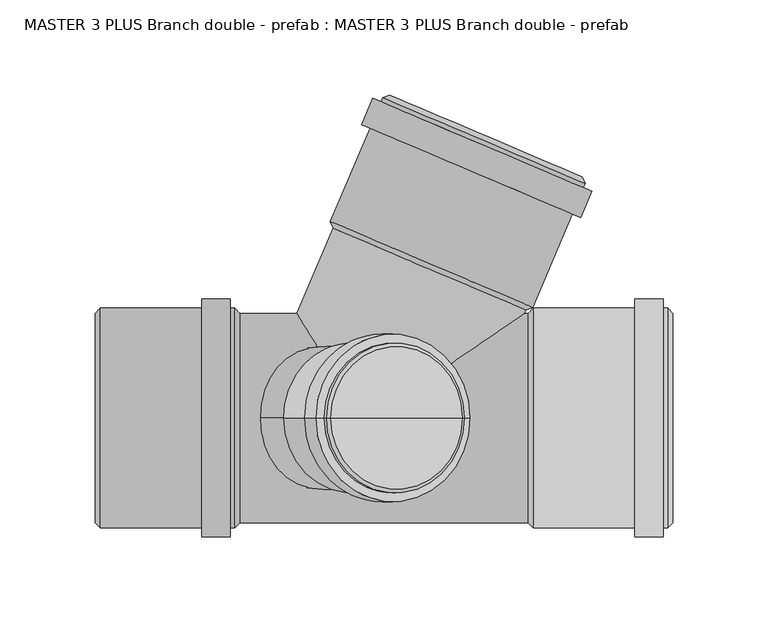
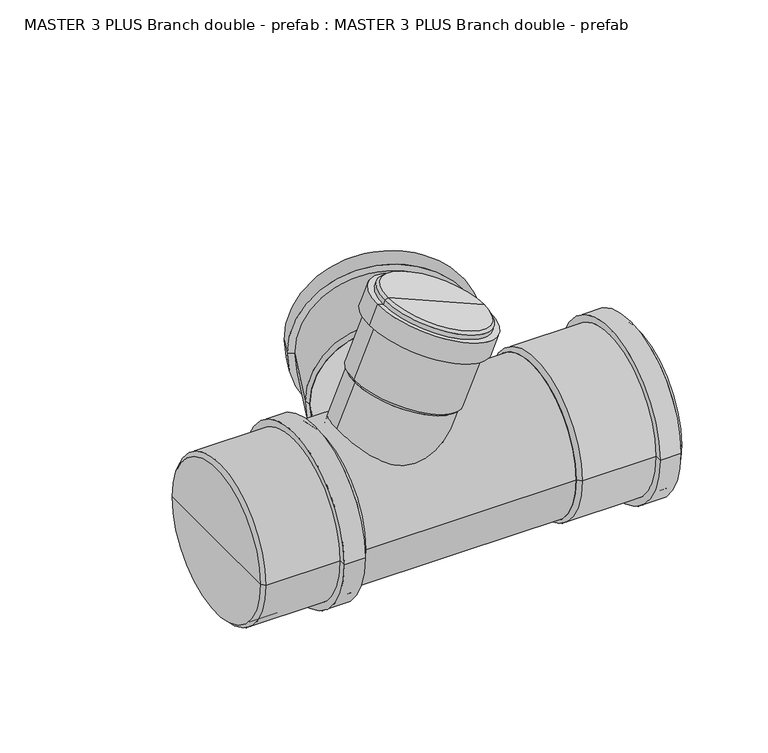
"""IFC4 building model written with IfcOpenShell, lengths in millimetres: pipe fitting geometry, MASTER 3 PLUS Branch double - prefab : MASTER 3 PLUS Branch double - prefab."""

from ifc_helpers import new_model, si_unit, point, frame, origin, origin_2d, place, context, project, spatial, polyline, circle_curve, trimmed, segment, composite_curve, outline, extrude, source, transform, mapped, element, save
from ifc_brep_helpers import plane_surface, cylinder_surface, revolved_surface, advanced_brep


def master_3_plus_branch_double_prefab_master_3_plus_branch_1b910fd9(model_context):
    return source(origin(), model_context, "Body", "SolidModel", [
        advanced_brep(
        [(-32.3959404, 0.0, 125.8117424), (48.6084867, 0.0, 91.4274031), (44.3741644, 0.0, 93.2247662), (-28.1616181, 0.0, 124.0143792), (-26.5349735, 0.0, 139.6193152), (54.4694536, 0.0, 105.2349759), (-22.3006511, 0.0, 137.821952), (50.2351313, 0.0, 107.032339), (15.9208957, 0.0, 127.0296698), (50.4398277, 0.0, 112.3772525), (-18.5980363, 0.0, 141.6820871), (-42.4326351, 0.0, 85.531291), (26.6052289, 0.0, 56.2264564), (-7.9137031, 0.0, 70.8788737), (-43.4392052, 0.0, 88.0226394), (29.0965773, 0.0, 57.2330265), (-21.0893846, 0.0, 140.675517), (51.4463978, 0.0, 109.8859041)],
        [
            (0, 1, circle_curve(frame((8.1062732, 0.0, 108.6195727), z_axis=(-0.3907311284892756, 0.0, -0.9205048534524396), x_axis=(0.9205048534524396, 0.0, -0.3907311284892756)), 44.0)),
            (1, 2),
            (2, 3, circle_curve(frame((8.1062732, 0.0, 108.6195727), z_axis=(0.3907311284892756, 0.0, 0.9205048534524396), x_axis=(0.9205048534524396, 0.0, -0.3907311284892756)), 39.4)),
            (3, 0),
            (1, 0, circle_curve(frame((8.1062732, 0.0, 108.6195727), z_axis=(-0.3907311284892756, 0.0, -0.9205048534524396), x_axis=(0.9205048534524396, 0.0, -0.3907311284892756)), 44.0)),
            (3, 2, circle_curve(frame((8.1062732, 0.0, 108.6195727), z_axis=(0.3907311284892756, 0.0, 0.9205048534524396), x_axis=(0.9205048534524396, 0.0, -0.3907311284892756)), 39.4)),
            (4, 5, circle_curve(frame((13.9672401, 0.0, 122.4271455), z_axis=(-0.3907311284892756, 0.0, -0.9205048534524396), x_axis=(0.9205048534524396, 0.0, -0.3907311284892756)), 44.0)),
            (5, 1),
            (0, 4),
            (5, 4, circle_curve(frame((13.9672401, 0.0, 122.4271455), z_axis=(-0.3907311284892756, 0.0, -0.9205048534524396), x_axis=(0.9205048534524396, 0.0, -0.3907311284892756)), 44.0)),
            (6, 7, circle_curve(frame((13.9672401, 0.0, 122.4271455), z_axis=(-0.3907311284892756, 0.0, -0.9205048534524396), x_axis=(0.9205048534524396, 0.0, -0.3907311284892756)), 39.4)),
            (7, 5),
            (4, 6),
            (7, 6, circle_curve(frame((13.9672401, 0.0, 122.4271455), z_axis=(-0.3907311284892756, 0.0, -0.9205048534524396), x_axis=(0.9205048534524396, 0.0, -0.3907311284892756)), 39.4)),
            (8, 9),
            (9, 10, circle_curve(frame((15.9208957, 0.0, 127.0296698), z_axis=(0.3907311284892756, 0.0, 0.9205048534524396), x_axis=(0.9205048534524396, 0.0, -0.3907311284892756)), 37.5)),
            (10, 8),
            (10, 9, circle_curve(frame((15.9208957, 0.0, 127.0296698), z_axis=(0.3907311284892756, 0.0, 0.9205048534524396), x_axis=(0.9205048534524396, 0.0, -0.3907311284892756)), 37.5)),
            (11, 12, circle_curve(frame((-7.9137031, 0.0, 70.8788737), z_axis=(-0.3907311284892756, 0.0, -0.9205048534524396), x_axis=(0.9205048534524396, 0.0, -0.3907311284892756)), 37.5)),
            (12, 13),
            (13, 11),
            (12, 11, circle_curve(frame((-7.9137031, 0.0, 70.8788737), z_axis=(-0.3907311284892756, 0.0, -0.9205048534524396), x_axis=(0.9205048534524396, 0.0, -0.3907311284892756)), 37.5)),
            (14, 15, circle_curve(frame((-7.171314, 0.0, 72.6278329), z_axis=(-0.3907311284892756, 0.0, -0.9205048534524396), x_axis=(0.9205048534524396, 0.0, -0.3907311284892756)), 39.4)),
            (15, 12),
            (11, 14),
            (15, 14, circle_curve(frame((-7.171314, 0.0, 72.6278329), z_axis=(-0.3907311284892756, 0.0, -0.9205048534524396), x_axis=(0.9205048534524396, 0.0, -0.3907311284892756)), 39.4)),
            (16, 17, circle_curve(frame((15.1785066, 0.0, 125.2807106), z_axis=(-0.3907311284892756, 0.0, -0.9205048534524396), x_axis=(0.9205048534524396, 0.0, -0.3907311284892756)), 39.4)),
            (17, 7),
            (6, 16),
            (17, 16, circle_curve(frame((15.1785066, 0.0, 125.2807106), z_axis=(-0.3907311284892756, 0.0, -0.9205048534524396), x_axis=(0.9205048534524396, 0.0, -0.3907311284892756)), 39.4)),
            (2, 15),
            (14, 3),
            (9, 17),
            (16, 10),
        ],
        [
            plane_surface(frame((8.1062732, 0.0, 108.6195727), z_axis=(-0.3907311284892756, 0.0, -0.9205048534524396), x_axis=(0.9205048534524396, 0.0, -0.3907311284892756))),
            cylinder_surface(frame((764.1710068, 0.0, 1889.7964641), z_axis=(0.3907311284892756, 0.0, 0.9205048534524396), x_axis=(0.9205048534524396, 0.0, -0.3907311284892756)), 44.0),
            plane_surface(frame((13.9672401, 0.0, 122.4271455), z_axis=(0.3907311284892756, 0.0, 0.9205048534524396), x_axis=(0.9205048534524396, 0.0, -0.3907311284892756))),
            plane_surface(frame((15.9208957, 0.0, 127.0296698), z_axis=(0.3907311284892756, 0.0, 0.9205048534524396), x_axis=(0.9205048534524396, 0.0, -0.3907311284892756))),
            plane_surface(frame((-7.9137031, 0.0, 70.8788737), z_axis=(-0.3907311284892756, 0.0, -0.9205048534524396), x_axis=(0.9205048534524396, 0.0, -0.3907311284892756))),
            revolved_surface(polyline([(26.6052289, 0.0, 56.2264564), (29.0965773, 0.0, 57.2330265)]), (764.1710068, 0.0, 1889.7964641), (0.3907311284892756, 0.0, 0.9205048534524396)),
            cylinder_surface(frame((764.1710068, 0.0, 1889.7964641), z_axis=(0.3907311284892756, 0.0, 0.9205048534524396), x_axis=(0.9205048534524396, 0.0, -0.3907311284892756)), 39.4),
            revolved_surface(polyline([(51.4463978, 0.0, 109.8859041), (50.4398277, 0.0, 112.3772525)]), (764.1710068, 0.0, 1889.7964641), (0.3907311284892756, 0.0, 0.9205048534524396)),
        ],
        [
            (0, [[1, 2, 3, 4]]),
            (0, [[5, -4, 6, -2]]),
            (1, [[7, 8, -1, 9]]),
            (1, [[10, -9, -5, -8]]),
            (2, [[11, 12, -7, 13]]),
            (2, [[14, -13, -10, -12]]),
            (3, [[15, 16, 17]]),
            (3, [[-17, 18, -15]]),
            (4, [[19, 20, 21]]),
            (4, [[22, -21, -20]]),
            (5, [[23, 24, -19, 25]]),
            (5, [[26, -25, -22, -24]]),
            (6, [[27, 28, -11, 29]]),
            (6, [[30, -29, -14, -28]]),
            (6, [[-3, 31, -23, 32]]),
            (6, [[-6, -32, -26, -31]]),
            (7, [[-16, 33, -27, 34]]),
            (7, [[-18, -34, -30, -33]]),
        ],
    ),
        advanced_brep(
        [(-2.4384642, 154.2118799, 0.0), (112.6246425, 105.3704888, 0.0), (108.2062192, 107.2459982, 0.0), (1.9799591, 152.3363705, 0.0), (3.4225027, 168.0194527, 0.0), (118.4856094, 119.1780616, 0.0), (7.840926, 166.1439433, 0.0), (114.0671861, 121.053571, 0.0), (62.9077117, 148.2012814, 0.0), (113.5354786, 126.7110693, 0.0), (12.2799447, 169.6914935, 0.0), (-17.415621, 99.7331246, 0.0), (83.8399129, 56.7527005, 0.0), (33.2121459, 78.2429125, 0.0), (-18.8460101, 103.2734618, 0.0), (87.38025, 58.1830895, 0.0), (8.7396076, 168.2611044, 0.0), (114.9658677, 123.1707322, 0.0)],
        [
            (0, 1, circle_curve(frame((55.0930891, 129.7911843, 0.0), z_axis=(-0.3907311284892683, -0.9205048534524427, 0.0), x_axis=(0.9205048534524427, -0.3907311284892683, 0.0)), 62.5)),
            (1, 2),
            (2, 3, circle_curve(frame((55.0930891, 129.7911843, 0.0), z_axis=(0.3907311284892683, 0.9205048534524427, 0.0), x_axis=(0.9205048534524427, -0.3907311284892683, 0.0)), 57.7)),
            (3, 0),
            (1, 0, circle_curve(frame((55.0930891, 129.7911843, 0.0), z_axis=(-0.3907311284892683, -0.9205048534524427, 0.0), x_axis=(0.9205048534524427, -0.3907311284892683, 0.0)), 62.5)),
            (3, 2, circle_curve(frame((55.0930891, 129.7911843, 0.0), z_axis=(0.3907311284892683, 0.9205048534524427, 0.0), x_axis=(0.9205048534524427, -0.3907311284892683, 0.0)), 57.7)),
            (4, 5, circle_curve(frame((60.954056, 143.5987571, 0.0), z_axis=(-0.3907311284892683, -0.9205048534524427, 0.0), x_axis=(0.9205048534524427, -0.3907311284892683, 0.0)), 62.5)),
            (5, 1),
            (0, 4),
            (5, 4, circle_curve(frame((60.954056, 143.5987571, 0.0), z_axis=(-0.3907311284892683, -0.9205048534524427, 0.0), x_axis=(0.9205048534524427, -0.3907311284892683, 0.0)), 62.5)),
            (6, 7, circle_curve(frame((60.954056, 143.5987571, 0.0), z_axis=(-0.3907311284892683, -0.9205048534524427, 0.0), x_axis=(0.9205048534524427, -0.3907311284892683, 0.0)), 57.7)),
            (7, 5),
            (4, 6),
            (7, 6, circle_curve(frame((60.954056, 143.5987571, 0.0), z_axis=(-0.3907311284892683, -0.9205048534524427, 0.0), x_axis=(0.9205048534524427, -0.3907311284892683, 0.0)), 57.7)),
            (8, 9),
            (9, 10, circle_curve(frame((62.9077117, 148.2012814, 0.0), z_axis=(0.3907311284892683, 0.9205048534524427, 0.0), x_axis=(0.9205048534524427, -0.3907311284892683, 0.0)), 55.0)),
            (10, 8),
            (10, 9, circle_curve(frame((62.9077117, 148.2012814, 0.0), z_axis=(0.3907311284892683, 0.9205048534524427, 0.0), x_axis=(0.9205048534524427, -0.3907311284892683, 0.0)), 55.0)),
            (11, 12, circle_curve(frame((33.2121459, 78.2429125, 0.0), z_axis=(-0.3907311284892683, -0.9205048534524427, 0.0), x_axis=(0.9205048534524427, -0.3907311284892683, 0.0)), 55.0)),
            (12, 13),
            (13, 11),
            (12, 11, circle_curve(frame((33.2121459, 78.2429125, 0.0), z_axis=(-0.3907311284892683, -0.9205048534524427, 0.0), x_axis=(0.9205048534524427, -0.3907311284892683, 0.0)), 55.0)),
            (14, 15, circle_curve(frame((34.26712, 80.7282756, 0.0), z_axis=(-0.3907311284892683, -0.9205048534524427, 0.0), x_axis=(0.9205048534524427, -0.3907311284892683, 0.0)), 57.7)),
            (15, 12),
            (11, 14),
            (15, 14, circle_curve(frame((34.26712, 80.7282756, 0.0), z_axis=(-0.3907311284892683, -0.9205048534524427, 0.0), x_axis=(0.9205048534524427, -0.3907311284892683, 0.0)), 57.7)),
            (16, 17, circle_curve(frame((61.8527376, 145.7159183, 0.0), z_axis=(-0.3907311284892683, -0.9205048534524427, 0.0), x_axis=(0.9205048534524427, -0.3907311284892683, 0.0)), 57.7)),
            (17, 7),
            (6, 16),
            (17, 16, circle_curve(frame((61.8527376, 145.7159183, 0.0), z_axis=(-0.3907311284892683, -0.9205048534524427, 0.0), x_axis=(0.9205048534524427, -0.3907311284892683, 0.0)), 57.7)),
            (2, 15),
            (14, 3),
            (9, 17),
            (16, 10),
        ],
        [
            plane_surface(frame((55.0930891, 129.7911843, 0.0), z_axis=(-0.3907311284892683, -0.9205048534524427, 0.0), x_axis=(0.9205048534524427, -0.3907311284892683, 0.0))),
            cylinder_surface(frame((811.1578227, 1910.9680758, 0.0), z_axis=(0.3907311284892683, 0.9205048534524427, 0.0), x_axis=(0.9205048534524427, -0.3907311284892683, 0.0)), 62.5),
            plane_surface(frame((60.954056, 143.5987571, 0.0), z_axis=(0.3907311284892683, 0.9205048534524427, 0.0), x_axis=(0.9205048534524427, -0.3907311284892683, 0.0))),
            plane_surface(frame((62.9077117, 148.2012814, 0.0), z_axis=(0.3907311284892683, 0.9205048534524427, 0.0), x_axis=(0.9205048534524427, -0.3907311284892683, 0.0))),
            plane_surface(frame((33.2121459, 78.2429125, 0.0), z_axis=(-0.3907311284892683, -0.9205048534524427, 0.0), x_axis=(0.9205048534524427, -0.3907311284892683, 0.0))),
            revolved_surface(polyline([(83.8399129, 56.7527005, 0.0), (87.38025, 58.1830895, 0.0)]), (811.1578227, 1910.9680758, 0.0), (0.3907311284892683, 0.9205048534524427, 0.0)),
            cylinder_surface(frame((811.1578227, 1910.9680758, 0.0), z_axis=(0.3907311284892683, 0.9205048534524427, 0.0), x_axis=(0.9205048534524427, -0.3907311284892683, 0.0)), 57.7),
            revolved_surface(polyline([(114.9658677, 123.1707322, 0.0), (113.5354786, 126.7110693, 0.0)]), (811.1578227, 1910.9680758, 0.0), (0.3907311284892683, 0.9205048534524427, 0.0)),
        ],
        [
            (0, [[1, 2, 3, 4]]),
            (0, [[5, -4, 6, -2]]),
            (1, [[7, 8, -1, 9]]),
            (1, [[10, -9, -5, -8]]),
            (2, [[11, 12, -7, 13]]),
            (2, [[14, -13, -10, -12]]),
            (3, [[15, 16, 17]]),
            (3, [[-17, 18, -15]]),
            (4, [[19, 20, 21]]),
            (4, [[22, -21, -20]]),
            (5, [[23, 24, -19, 25]]),
            (5, [[26, -25, -22, -24]]),
            (6, [[27, 28, -11, 29]]),
            (6, [[30, -29, -14, -28]]),
            (6, [[-3, 31, -23, 32]]),
            (6, [[-6, -32, -26, -31]]),
            (7, [[-16, 33, -27, 34]]),
            (7, [[-18, -34, -30, -33]]),
        ],
    ),
        advanced_brep(
        [(-71.4, -62.5, 0.0), (-71.4, 62.5, 0.0), (-71.4, 57.7, 0.0), (-71.4, -57.7, 0.0), (-86.4, -62.5, 0.0), (-86.4, 62.5, 0.0), (-86.4, -57.7, 0.0), (-86.4, 57.7, 0.0), (-142.4, 0.0, 0.0), (-142.4, 55.0, 0.0), (-142.4, -55.0, 0.0), (-66.4, -55.0, 0.0), (-66.4, 55.0, 0.0), (-66.4, 0.0, 0.0), (-69.1, -57.7, 0.0), (-69.1, 57.7, 0.0), (-139.7, -57.7, 0.0), (-139.7, 57.7, 0.0)],
        [
            (0, 1, circle_curve(frame((-71.4, 0.0, 0.0), z_axis=(1.0, 0.0, 0.0), x_axis=(0.0, 1.0, 0.0)), 62.5)),
            (1, 2),
            (2, 3, circle_curve(frame((-71.4, 0.0, 0.0), z_axis=(-1.0, 0.0, 0.0), x_axis=(0.0, 1.0, 0.0)), 57.7)),
            (3, 0),
            (1, 0, circle_curve(frame((-71.4, 0.0, 0.0), z_axis=(1.0, 0.0, 0.0), x_axis=(0.0, 1.0, 0.0)), 62.5)),
            (3, 2, circle_curve(frame((-71.4, 0.0, 0.0), z_axis=(-1.0, 0.0, 0.0), x_axis=(0.0, 1.0, 0.0)), 57.7)),
            (4, 5, circle_curve(frame((-86.4, 0.0, 0.0), z_axis=(1.0, 0.0, 0.0), x_axis=(0.0, 1.0, 0.0)), 62.5)),
            (5, 1),
            (0, 4),
            (5, 4, circle_curve(frame((-86.4, 0.0, 0.0), z_axis=(1.0, 0.0, 0.0), x_axis=(0.0, 1.0, 0.0)), 62.5)),
            (6, 7, circle_curve(frame((-86.4, 0.0, 0.0), z_axis=(1.0, 0.0, 0.0), x_axis=(0.0, 1.0, 0.0)), 57.7)),
            (7, 5),
            (4, 6),
            (7, 6, circle_curve(frame((-86.4, 0.0, 0.0), z_axis=(1.0, 0.0, 0.0), x_axis=(0.0, 1.0, 0.0)), 57.7)),
            (8, 9),
            (9, 10, circle_curve(frame((-142.4, 0.0, 0.0), z_axis=(-1.0, 0.0, 0.0), x_axis=(0.0, 1.0, 0.0)), 55.0)),
            (10, 8),
            (10, 9, circle_curve(frame((-142.4, 0.0, 0.0), z_axis=(-1.0, 0.0, 0.0), x_axis=(0.0, 1.0, 0.0)), 55.0)),
            (11, 12, circle_curve(frame((-66.4, 0.0, 0.0), z_axis=(1.0, 0.0, 0.0), x_axis=(0.0, 1.0, 0.0)), 55.0)),
            (12, 13),
            (13, 11),
            (12, 11, circle_curve(frame((-66.4, 0.0, 0.0), z_axis=(1.0, 0.0, 0.0), x_axis=(0.0, 1.0, 0.0)), 55.0)),
            (14, 15, circle_curve(frame((-69.1, 0.0, 0.0), z_axis=(1.0, 0.0, 0.0), x_axis=(0.0, 1.0, 0.0)), 57.7)),
            (15, 12),
            (11, 14),
            (15, 14, circle_curve(frame((-69.1, 0.0, 0.0), z_axis=(1.0, 0.0, 0.0), x_axis=(0.0, 1.0, 0.0)), 57.7)),
            (16, 17, circle_curve(frame((-139.7, 0.0, 0.0), z_axis=(1.0, 0.0, 0.0), x_axis=(0.0, 1.0, 0.0)), 57.7)),
            (17, 7),
            (6, 16),
            (17, 16, circle_curve(frame((-139.7, 0.0, 0.0), z_axis=(1.0, 0.0, 0.0), x_axis=(0.0, 1.0, 0.0)), 57.7)),
            (2, 15),
            (14, 3),
            (9, 17),
            (16, 10),
        ],
        [
            plane_surface(frame((-71.4, 0.0, 0.0), z_axis=(1.0, 0.0, 0.0), x_axis=(0.0, 1.0, 0.0))),
            cylinder_surface(frame((-2057.4, 0.0, 0.0), z_axis=(-1.0, 0.0, 0.0), x_axis=(0.0, 1.0, 0.0)), 62.5),
            plane_surface(frame((-86.4, 0.0, 0.0), z_axis=(-1.0, 0.0, 0.0), x_axis=(0.0, 1.0, 0.0))),
            plane_surface(frame((-142.4, 0.0, 0.0), z_axis=(-1.0, 0.0, 0.0), x_axis=(0.0, 1.0, 0.0))),
            plane_surface(frame((-66.4, 0.0, 0.0), z_axis=(1.0, 0.0, 0.0), x_axis=(0.0, 1.0, 0.0))),
            revolved_surface(polyline([(-66.4, 55.0, 0.0), (-69.1, 57.7, 0.0)]), (-2057.4, 0.0, 0.0), (-1.0, 0.0, 0.0)),
            cylinder_surface(frame((-2057.4, 0.0, 0.0), z_axis=(-1.0, 0.0, 0.0), x_axis=(0.0, 1.0, 0.0)), 57.7),
            revolved_surface(polyline([(-139.7, 57.7, 0.0), (-142.4, 55.0, 0.0)]), (-2057.4, 0.0, 0.0), (-1.0, 0.0, 0.0)),
        ],
        [
            (0, [[1, 2, 3, 4]]),
            (0, [[5, -4, 6, -2]]),
            (1, [[7, 8, -1, 9]]),
            (1, [[10, -9, -5, -8]]),
            (2, [[11, 12, -7, 13]]),
            (2, [[14, -13, -10, -12]]),
            (3, [[15, 16, 17]]),
            (3, [[-17, 18, -15]]),
            (4, [[19, 20, 21]]),
            (4, [[22, -21, -20]]),
            (5, [[23, 24, -19, 25]]),
            (5, [[26, -25, -22, -24]]),
            (6, [[27, 28, -11, 29]]),
            (6, [[30, -29, -14, -28]]),
            (6, [[-3, 31, -23, 32]]),
            (6, [[-6, -32, -26, -31]]),
            (7, [[-16, 33, -27, 34]]),
            (7, [[-18, -34, -30, -33]]),
        ],
    ),
        advanced_brep(
        [(141.0, 62.5, 0.0), (141.0, -62.5, 0.0), (141.0, -57.7, 0.0), (141.0, 57.7, 0.0), (156.0, 62.5, 0.0), (156.0, -62.5, 0.0), (156.0, 57.7, 0.0), (156.0, -57.7, 0.0), (161.0, 0.0, 0.0), (161.0, -55.0, 0.0), (161.0, 55.0, 0.0), (85.0, 55.0, 0.0), (85.0, -55.0, 0.0), (85.0, 0.0, 0.0), (87.7, 57.7, 0.0), (87.7, -57.7, 0.0), (158.3, 57.7, 0.0), (158.3, -57.7, 0.0)],
        [
            (0, 1, circle_curve(frame((141.0, 0.0, 0.0), z_axis=(-1.0, 0.0, 0.0), x_axis=(0.0, -1.0, 0.0)), 62.5)),
            (1, 2),
            (2, 3, circle_curve(frame((141.0, 0.0, 0.0), z_axis=(1.0, 0.0, 0.0), x_axis=(0.0, -1.0, 0.0)), 57.7)),
            (3, 0),
            (1, 0, circle_curve(frame((141.0, 0.0, 0.0), z_axis=(-1.0, 0.0, 0.0), x_axis=(0.0, -1.0, 0.0)), 62.5)),
            (3, 2, circle_curve(frame((141.0, 0.0, 0.0), z_axis=(1.0, 0.0, 0.0), x_axis=(0.0, -1.0, 0.0)), 57.7)),
            (4, 5, circle_curve(frame((156.0, 0.0, 0.0), z_axis=(-1.0, 0.0, 0.0), x_axis=(0.0, -1.0, 0.0)), 62.5)),
            (5, 1),
            (0, 4),
            (5, 4, circle_curve(frame((156.0, 0.0, 0.0), z_axis=(-1.0, 0.0, 0.0), x_axis=(0.0, -1.0, 0.0)), 62.5)),
            (6, 7, circle_curve(frame((156.0, 0.0, 0.0), z_axis=(-1.0, 0.0, 0.0), x_axis=(0.0, -1.0, 0.0)), 57.7)),
            (7, 5),
            (4, 6),
            (7, 6, circle_curve(frame((156.0, 0.0, 0.0), z_axis=(-1.0, 0.0, 0.0), x_axis=(0.0, -1.0, 0.0)), 57.7)),
            (8, 9),
            (9, 10, circle_curve(frame((161.0, 0.0, 0.0), z_axis=(1.0, 0.0, 0.0), x_axis=(0.0, -1.0, 0.0)), 55.0)),
            (10, 8),
            (10, 9, circle_curve(frame((161.0, 0.0, 0.0), z_axis=(1.0, 0.0, 0.0), x_axis=(0.0, -1.0, 0.0)), 55.0)),
            (11, 12, circle_curve(frame((85.0, 0.0, 0.0), z_axis=(-1.0, 0.0, 0.0), x_axis=(0.0, -1.0, 0.0)), 55.0)),
            (12, 13),
            (13, 11),
            (12, 11, circle_curve(frame((85.0, 0.0, 0.0), z_axis=(-1.0, 0.0, 0.0), x_axis=(0.0, -1.0, 0.0)), 55.0)),
            (14, 15, circle_curve(frame((87.7, 0.0, 0.0), z_axis=(-1.0, 0.0, 0.0), x_axis=(0.0, -1.0, 0.0)), 57.7)),
            (15, 12),
            (11, 14),
            (15, 14, circle_curve(frame((87.7, 0.0, 0.0), z_axis=(-1.0, 0.0, 0.0), x_axis=(0.0, -1.0, 0.0)), 57.7)),
            (16, 17, circle_curve(frame((158.3, 0.0, 0.0), z_axis=(-1.0, 0.0, 0.0), x_axis=(0.0, -1.0, 0.0)), 57.7)),
            (17, 7),
            (6, 16),
            (17, 16, circle_curve(frame((158.3, 0.0, 0.0), z_axis=(-1.0, 0.0, 0.0), x_axis=(0.0, -1.0, 0.0)), 57.7)),
            (2, 15),
            (14, 3),
            (9, 17),
            (16, 10),
        ],
        [
            plane_surface(frame((141.0, 0.0, 0.0), z_axis=(-1.0, 0.0, 0.0), x_axis=(0.0, -1.0, 0.0))),
            cylinder_surface(frame((2076.0, 0.0, 0.0), z_axis=(1.0, 0.0, 0.0), x_axis=(0.0, -1.0, 0.0)), 62.5),
            plane_surface(frame((156.0, 0.0, 0.0), z_axis=(1.0, 0.0, 0.0), x_axis=(0.0, -1.0, 0.0))),
            plane_surface(frame((161.0, 0.0, 0.0), z_axis=(1.0, 0.0, 0.0), x_axis=(0.0, -1.0, 0.0))),
            plane_surface(frame((85.0, 0.0, 0.0), z_axis=(-1.0, 0.0, 0.0), x_axis=(0.0, -1.0, 0.0))),
            revolved_surface(polyline([(85.0, -55.0, 0.0), (87.7, -57.7, 0.0)]), (2076.0, 0.0, 0.0), (1.0, 0.0, 0.0)),
            cylinder_surface(frame((2076.0, 0.0, 0.0), z_axis=(1.0, 0.0, 0.0), x_axis=(0.0, -1.0, 0.0)), 57.7),
            revolved_surface(polyline([(158.3, -57.7, 0.0), (161.0, -55.0, 0.0)]), (2076.0, 0.0, 0.0), (1.0, 0.0, 0.0)),
        ],
        [
            (0, [[1, 2, 3, 4]]),
            (0, [[5, -4, 6, -2]]),
            (1, [[7, 8, -1, 9]]),
            (1, [[10, -9, -5, -8]]),
            (2, [[11, 12, -7, 13]]),
            (2, [[14, -13, -10, -12]]),
            (3, [[15, 16, 17]]),
            (3, [[-17, 18, -15]]),
            (4, [[19, 20, 21]]),
            (4, [[22, -21, -20]]),
            (5, [[23, 24, -19, 25]]),
            (5, [[26, -25, -22, -24]]),
            (6, [[27, 28, -11, 29]]),
            (6, [[30, -29, -14, -28]]),
            (6, [[-3, 31, -23, 32]]),
            (6, [[-6, -32, -26, -31]]),
            (7, [[-16, 33, -27, 34]]),
            (7, [[-18, -34, -30, -33]]),
        ],
    ),
        extrude(outline(composite_curve([segment(trimmed(circle_curve(origin_2d(), 37.5), [point((0.0, 37.5))], [point((0.0, -37.5))], False, "CARTESIAN"), True, "CONTINUOUS"), segment(trimmed(circle_curve(origin_2d(), 37.5), [point((0.0, -37.5))], [point((0.0, 37.5))], False, "CARTESIAN"), True, "CONTINUOUS")], self_intersect=False)), frame((-38.0, 0.0, 0.0), z_axis=(0.39073112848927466, 0.0, 0.9205048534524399), x_axis=(0.0, -1.0, 0.0)), (0.0, 0.0, 1.0), 77.0),
        extrude(outline(composite_curve([segment(trimmed(circle_curve(origin_2d(), 55.0), [point((0.0, 55.0))], [point((0.0, -55.0))], False, "CARTESIAN"), True, "CONTINUOUS"), segment(trimmed(circle_curve(origin_2d(), 55.0), [point((0.0, -55.0))], [point((0.0, 55.0))], False, "CARTESIAN"), True, "CONTINUOUS")], self_intersect=False)), frame((0.0, 0.0, 0.0), z_axis=(0.3907311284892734, 0.9205048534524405, 0.0), x_axis=(0.0, 0.0, 1.0)), (0.0, 0.0, 1.0), 85.0),
        extrude(outline(composite_curve([segment(trimmed(circle_curve(origin_2d(), 55.0), [point((-55.0, 0.0))], [point((55.0, 0.0))], False, "CARTESIAN"), True, "CONTINUOUS"), segment(trimmed(circle_curve(origin_2d(), 55.0), [point((55.0, 0.0))], [point((-55.0, 0.0))], False, "CARTESIAN"), True, "CONTINUOUS")], self_intersect=False)), frame((-139.7, 0.0, 0.0), z_axis=(1.0, 0.0, 0.0), x_axis=(0.0, 1.0, 0.0)), (0.0, 0.0, 1.0), 224.7),
    ])


if __name__ == "__main__":
    model = new_model("IFC4")
    model_context = context("Model", 3, world=origin())
    ifc_project = project(units=[si_unit("LENGTHUNIT", "METRE", prefix="MILLI")], contexts=[model_context])
    site = spatial("IfcSite", under=ifc_project)
    building = spatial("IfcBuilding", under=site)
    placement = place(None, origin())
    master_3_plus_branch_double_prefab_master_3_plus_branch_shape = master_3_plus_branch_double_prefab_master_3_plus_branch_1b910fd9(model_context)
    element("IfcPipeFitting", 1, ObjectType="MASTER 3 PLUS Branch double - prefab : MASTER 3 PLUS Branch double - prefab", at=placement, inside=building, context=model_context, shape_type="MappedRepresentation", body=[
        mapped(master_3_plus_branch_double_prefab_master_3_plus_branch_shape, transform((0.0, 0.0, 0.0), x_axis=(1.0, 0.0, 0.0), y_axis=(0.0, 1.0, 0.0), z_axis=(0.0, 0.0, 1.0))),
    ])
    save(model, "model.ifc")
